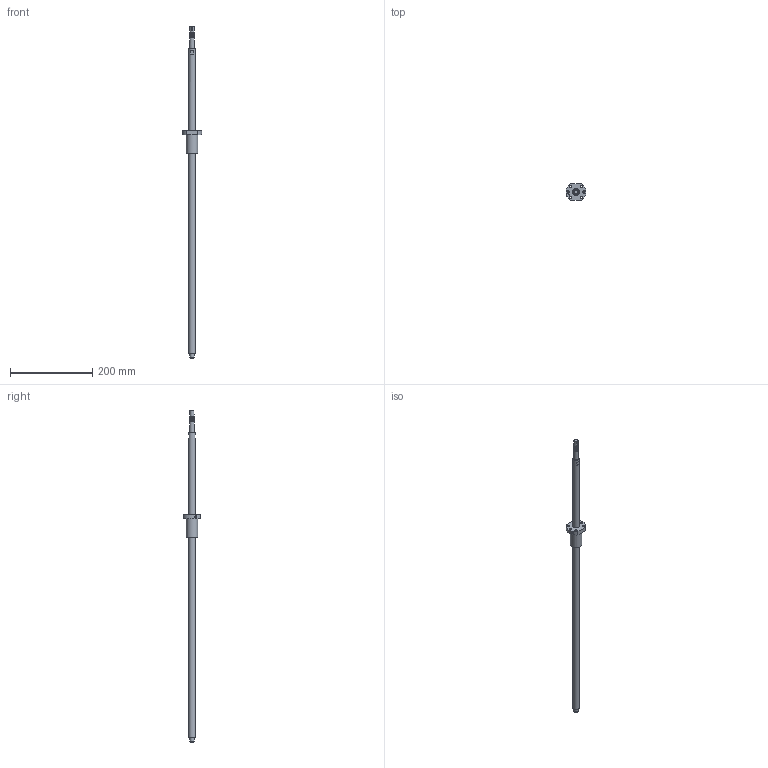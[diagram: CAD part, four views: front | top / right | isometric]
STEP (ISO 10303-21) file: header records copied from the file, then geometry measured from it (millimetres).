
FILE_DESCRIPTION(/* description */ (''),/* implementation_level */ '2;1');
FILE_NAME(/* name */ 'BSG144_asm1.stp',/* time_stamp */ '2017-01-07T08:52:57+08:00',/* author */ (''),/* organization */ (''),/* preprocessor_version */ 'ST-DEVELOPER v15',/* originating_system */ 'SIEMENS PLM Software NX 8.5',/* authorisation */ '');
FILE_SCHEMA (('AUTOMOTIVE_DESIGN { 1 0 10303 214 3 1 1 1 }'));
Length unit declared in the file: millimetre
Products named in the file (3): 01; BSG144; BSG144_asm1
Assembly tree (2 placements, depth 2):
  BSG144_asm1
    BSG144
    01
Bounding box: 48 x 40 x 805 mm (x, y, z)
Volume: 186319.4 mm3; surface area: 52302 mm2
Topology: 2 solids, 2 shells, 56 faces, 137 edges, 94 vertices
Faces by surface type: cylinder 28, plane 24, bspline 2, cone 2
Full cylindrical faces by diameter (mm): 5 x1, 5.5 x6, 6 x1, 9.6 x1, 10 x3, 12 x8, 16 x2, 28 x1
Entity records: 2497 total; most frequent: CARTESIAN_POINT 1414, DIRECTION 212, ORIENTED_EDGE 170, AXIS2_PLACEMENT_3D 92, EDGE_LOOP 90, EDGE_CURVE 85, FACE_BOUND 69, VERTEX_POINT 67
